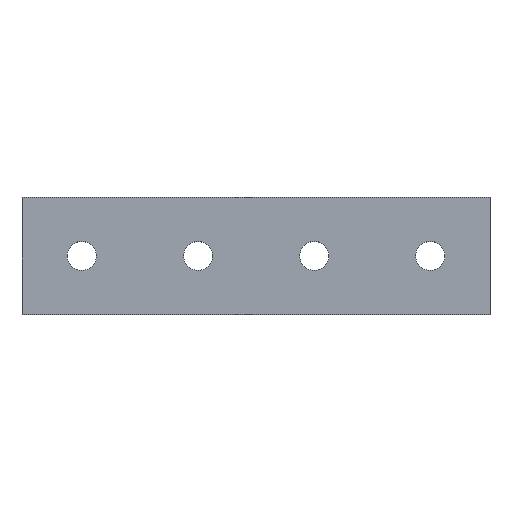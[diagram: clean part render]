
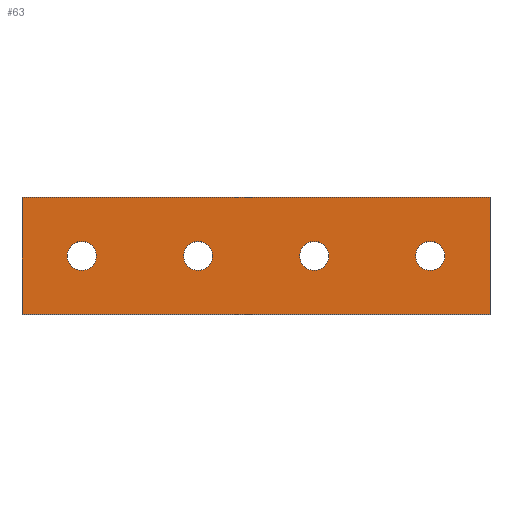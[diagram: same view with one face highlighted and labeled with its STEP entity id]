
A CAD part, top view. The second image highlights one B-rep face of the part: STEP entity #63.
In plain terms, the highlighted planar face has unit normal (0, 0, 1).
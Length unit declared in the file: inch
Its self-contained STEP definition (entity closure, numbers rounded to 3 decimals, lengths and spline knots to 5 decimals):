
#63=ADVANCED_FACE('',(#132,#133,#134,#135,#136),#137,.T.);
#132=FACE_BOUND('',#262,.T.);
#133=FACE_BOUND('',#263,.T.);
#134=FACE_BOUND('',#264,.T.);
#135=FACE_BOUND('',#265,.T.);
#136=FACE_OUTER_BOUND('',#266,.T.);
#137=PLANE('',#267);
#262=EDGE_LOOP('',(#415,#416,#417,#418));
#263=EDGE_LOOP('',(#419,#420,#421,#422));
#264=EDGE_LOOP('',(#423,#424,#425,#426));
#265=EDGE_LOOP('',(#427,#428,#429,#430));
#266=EDGE_LOOP('',(#431,#432,#433,#434));
#267=AXIS2_PLACEMENT_3D('',#435,#436,#437);
#415=ORIENTED_EDGE('',*,*,#540,.F.);
#416=ORIENTED_EDGE('',*,*,#545,.F.);
#417=ORIENTED_EDGE('',*,*,#549,.F.);
#418=ORIENTED_EDGE('',*,*,#564,.F.);
#419=ORIENTED_EDGE('',*,*,#572,.F.);
#420=ORIENTED_EDGE('',*,*,#573,.F.);
#421=ORIENTED_EDGE('',*,*,#574,.F.);
#422=ORIENTED_EDGE('',*,*,#575,.F.);
#423=ORIENTED_EDGE('',*,*,#576,.F.);
#424=ORIENTED_EDGE('',*,*,#553,.F.);
#425=ORIENTED_EDGE('',*,*,#577,.F.);
#426=ORIENTED_EDGE('',*,*,#567,.F.);
#427=ORIENTED_EDGE('',*,*,#578,.F.);
#428=ORIENTED_EDGE('',*,*,#579,.F.);
#429=ORIENTED_EDGE('',*,*,#580,.F.);
#430=ORIENTED_EDGE('',*,*,#558,.F.);
#431=ORIENTED_EDGE('',*,*,#581,.F.);
#432=ORIENTED_EDGE('',*,*,#582,.F.);
#433=ORIENTED_EDGE('',*,*,#583,.F.);
#434=ORIENTED_EDGE('',*,*,#584,.F.);
#435=CARTESIAN_POINT('',(3.25,0.8125,0.375));
#436=DIRECTION('',(0.0,0.0,1.0));
#437=DIRECTION('',(1.0,0.0,0.0));
#540=EDGE_CURVE('',#623,#624,#625,.T.);
#545=EDGE_CURVE('',#632,#623,#633,.T.);
#549=EDGE_CURVE('',#638,#632,#639,.T.);
#553=EDGE_CURVE('',#644,#645,#646,.T.);
#558=EDGE_CURVE('',#653,#654,#655,.T.);
#564=EDGE_CURVE('',#624,#638,#663,.T.);
#567=EDGE_CURVE('',#666,#667,#668,.T.);
#572=EDGE_CURVE('',#675,#676,#677,.T.);
#573=EDGE_CURVE('',#678,#675,#679,.T.);
#574=EDGE_CURVE('',#680,#678,#681,.T.);
#575=EDGE_CURVE('',#676,#680,#682,.T.);
#576=EDGE_CURVE('',#645,#666,#683,.T.);
#577=EDGE_CURVE('',#667,#644,#684,.T.);
#578=EDGE_CURVE('',#685,#653,#686,.T.);
#579=EDGE_CURVE('',#687,#685,#688,.T.);
#580=EDGE_CURVE('',#654,#687,#689,.T.);
#581=EDGE_CURVE('',#690,#691,#692,.T.);
#582=EDGE_CURVE('',#693,#690,#694,.T.);
#583=EDGE_CURVE('',#695,#693,#696,.T.);
#584=EDGE_CURVE('',#691,#695,#697,.T.);
#623=VERTEX_POINT('',#746);
#624=VERTEX_POINT('',#747);
#625=B_SPLINE_CURVE_WITH_KNOTS('',3,(#748,#749,#750,#751),.UNSPECIFIED.,.F.,.F.,(4,4),(-1.0,-0.0),.UNSPECIFIED.);
#632=VERTEX_POINT('',#763);
#633=B_SPLINE_CURVE_WITH_KNOTS('',3,(#764,#765,#766,#767),.UNSPECIFIED.,.F.,.F.,(4,4),(-1.0,-0.0),.UNSPECIFIED.);
#638=VERTEX_POINT('',#776);
#639=B_SPLINE_CURVE_WITH_KNOTS('',3,(#777,#778,#779,#780),.UNSPECIFIED.,.F.,.F.,(4,4),(-1.0,-0.0),.UNSPECIFIED.);
#644=VERTEX_POINT('',#789);
#645=VERTEX_POINT('',#790);
#646=B_SPLINE_CURVE_WITH_KNOTS('',3,(#791,#792,#793,#794),.UNSPECIFIED.,.F.,.F.,(4,4),(-1.0,-0.0),.UNSPECIFIED.);
#653=VERTEX_POINT('',#806);
#654=VERTEX_POINT('',#807);
#655=B_SPLINE_CURVE_WITH_KNOTS('',3,(#808,#809,#810,#811),.UNSPECIFIED.,.F.,.F.,(4,4),(-1.0,-0.0),.UNSPECIFIED.);
#663=B_SPLINE_CURVE_WITH_KNOTS('',3,(#824,#825,#826,#827),.UNSPECIFIED.,.F.,.F.,(4,4),(-1.0,-0.0),.UNSPECIFIED.);
#666=VERTEX_POINT('',#833);
#667=VERTEX_POINT('',#834);
#668=B_SPLINE_CURVE_WITH_KNOTS('',3,(#835,#836,#837,#838),.UNSPECIFIED.,.F.,.F.,(4,4),(-1.0,-0.0),.UNSPECIFIED.);
#675=VERTEX_POINT('',#850);
#676=VERTEX_POINT('',#851);
#677=B_SPLINE_CURVE_WITH_KNOTS('',3,(#852,#853,#854,#855),.UNSPECIFIED.,.F.,.F.,(4,4),(-1.0,-0.0),.UNSPECIFIED.);
#678=VERTEX_POINT('',#856);
#679=B_SPLINE_CURVE_WITH_KNOTS('',3,(#857,#858,#859,#860),.UNSPECIFIED.,.F.,.F.,(4,4),(-1.0,-0.0),.UNSPECIFIED.);
#680=VERTEX_POINT('',#861);
#681=B_SPLINE_CURVE_WITH_KNOTS('',3,(#862,#863,#864,#865),.UNSPECIFIED.,.F.,.F.,(4,4),(-1.0,-0.0),.UNSPECIFIED.);
#682=B_SPLINE_CURVE_WITH_KNOTS('',3,(#866,#867,#868,#869),.UNSPECIFIED.,.F.,.F.,(4,4),(-1.0,-0.0),.UNSPECIFIED.);
#683=B_SPLINE_CURVE_WITH_KNOTS('',3,(#870,#871,#872,#873),.UNSPECIFIED.,.F.,.F.,(4,4),(-1.0,-0.0),.UNSPECIFIED.);
#684=B_SPLINE_CURVE_WITH_KNOTS('',3,(#874,#875,#876,#877),.UNSPECIFIED.,.F.,.F.,(4,4),(-1.0,-0.0),.UNSPECIFIED.);
#685=VERTEX_POINT('',#878);
#686=B_SPLINE_CURVE_WITH_KNOTS('',3,(#879,#880,#881,#882),.UNSPECIFIED.,.F.,.F.,(4,4),(-1.0,-0.0),.UNSPECIFIED.);
#687=VERTEX_POINT('',#883);
#688=B_SPLINE_CURVE_WITH_KNOTS('',3,(#884,#885,#886,#887),.UNSPECIFIED.,.F.,.F.,(4,4),(-1.0,-0.0),.UNSPECIFIED.);
#689=B_SPLINE_CURVE_WITH_KNOTS('',3,(#888,#889,#890,#891),.UNSPECIFIED.,.F.,.F.,(4,4),(-1.0,-0.0),.UNSPECIFIED.);
#690=VERTEX_POINT('',#892);
#691=VERTEX_POINT('',#893);
#692=LINE('',#894,#895);
#693=VERTEX_POINT('',#896);
#694=LINE('',#897,#898);
#695=VERTEX_POINT('',#899);
#696=LINE('',#900,#901);
#697=LINE('',#902,#903);
#746=CARTESIAN_POINT('',(5.87162,0.8125,0.375));
#747=CARTESIAN_POINT('',(5.66999,1.01416,0.375));
#748=CARTESIAN_POINT('',(5.87162,0.8125,0.375));
#749=CARTESIAN_POINT('',(5.87162,0.92382,0.375));
#750=CARTESIAN_POINT('',(5.78129,1.01416,0.375));
#751=CARTESIAN_POINT('',(5.66999,1.01416,0.375));
#763=CARTESIAN_POINT('',(5.66999,0.61084,0.375));
#764=CARTESIAN_POINT('',(5.66999,0.61084,0.375));
#765=CARTESIAN_POINT('',(5.78129,0.61084,0.375));
#766=CARTESIAN_POINT('',(5.87162,0.70119,0.375));
#767=CARTESIAN_POINT('',(5.87162,0.8125,0.375));
#776=CARTESIAN_POINT('',(5.46837,0.8125,0.375));
#777=CARTESIAN_POINT('',(5.46837,0.8125,0.375));
#778=CARTESIAN_POINT('',(5.46837,0.70119,0.375));
#779=CARTESIAN_POINT('',(5.5587,0.61084,0.375));
#780=CARTESIAN_POINT('',(5.66999,0.61084,0.375));
#789=CARTESIAN_POINT('',(2.445,0.61084,0.375));
#790=CARTESIAN_POINT('',(2.64662,0.8125,0.375));
#791=CARTESIAN_POINT('',(2.445,0.61084,0.375));
#792=CARTESIAN_POINT('',(2.55629,0.61084,0.375));
#793=CARTESIAN_POINT('',(2.64662,0.70119,0.375));
#794=CARTESIAN_POINT('',(2.64662,0.8125,0.375));
#806=CARTESIAN_POINT('',(4.05999,1.01416,0.375));
#807=CARTESIAN_POINT('',(3.85837,0.8125,0.375));
#808=CARTESIAN_POINT('',(4.05999,1.01416,0.375));
#809=CARTESIAN_POINT('',(3.9487,1.01416,0.375));
#810=CARTESIAN_POINT('',(3.85837,0.92382,0.375));
#811=CARTESIAN_POINT('',(3.85837,0.8125,0.375));
#824=CARTESIAN_POINT('',(5.66999,1.01416,0.375));
#825=CARTESIAN_POINT('',(5.5587,1.01416,0.375));
#826=CARTESIAN_POINT('',(5.46837,0.92382,0.375));
#827=CARTESIAN_POINT('',(5.46837,0.8125,0.375));
#833=CARTESIAN_POINT('',(2.445,1.01416,0.375));
#834=CARTESIAN_POINT('',(2.24338,0.8125,0.375));
#835=CARTESIAN_POINT('',(2.445,1.01416,0.375));
#836=CARTESIAN_POINT('',(2.3337,1.01416,0.375));
#837=CARTESIAN_POINT('',(2.24338,0.92382,0.375));
#838=CARTESIAN_POINT('',(2.24338,0.8125,0.375));
#850=CARTESIAN_POINT('',(1.03162,0.8125,0.375));
#851=CARTESIAN_POINT('',(0.83,1.01416,0.375));
#852=CARTESIAN_POINT('',(1.03162,0.8125,0.375));
#853=CARTESIAN_POINT('',(1.03162,0.92382,0.375));
#854=CARTESIAN_POINT('',(0.94128,1.01416,0.375));
#855=CARTESIAN_POINT('',(0.83,1.01416,0.375));
#856=CARTESIAN_POINT('',(0.83,0.61084,0.375));
#857=CARTESIAN_POINT('',(0.83,0.61084,0.375));
#858=CARTESIAN_POINT('',(0.94128,0.61084,0.375));
#859=CARTESIAN_POINT('',(1.03162,0.70119,0.375));
#860=CARTESIAN_POINT('',(1.03162,0.8125,0.375));
#861=CARTESIAN_POINT('',(0.62838,0.8125,0.375));
#862=CARTESIAN_POINT('',(0.62838,0.8125,0.375));
#863=CARTESIAN_POINT('',(0.62838,0.70119,0.375));
#864=CARTESIAN_POINT('',(0.7187,0.61084,0.375));
#865=CARTESIAN_POINT('',(0.83,0.61084,0.375));
#866=CARTESIAN_POINT('',(0.83,1.01416,0.375));
#867=CARTESIAN_POINT('',(0.7187,1.01416,0.375));
#868=CARTESIAN_POINT('',(0.62838,0.92382,0.375));
#869=CARTESIAN_POINT('',(0.62838,0.8125,0.375));
#870=CARTESIAN_POINT('',(2.64662,0.8125,0.375));
#871=CARTESIAN_POINT('',(2.64662,0.92382,0.375));
#872=CARTESIAN_POINT('',(2.55629,1.01416,0.375));
#873=CARTESIAN_POINT('',(2.445,1.01416,0.375));
#874=CARTESIAN_POINT('',(2.24338,0.8125,0.375));
#875=CARTESIAN_POINT('',(2.24338,0.70119,0.375));
#876=CARTESIAN_POINT('',(2.3337,0.61084,0.375));
#877=CARTESIAN_POINT('',(2.445,0.61084,0.375));
#878=CARTESIAN_POINT('',(4.26161,0.8125,0.375));
#879=CARTESIAN_POINT('',(4.26161,0.8125,0.375));
#880=CARTESIAN_POINT('',(4.26161,0.92382,0.375));
#881=CARTESIAN_POINT('',(4.17129,1.01416,0.375));
#882=CARTESIAN_POINT('',(4.05999,1.01416,0.375));
#883=CARTESIAN_POINT('',(4.05999,0.61084,0.375));
#884=CARTESIAN_POINT('',(4.05999,0.61084,0.375));
#885=CARTESIAN_POINT('',(4.17129,0.61084,0.375));
#886=CARTESIAN_POINT('',(4.26161,0.70119,0.375));
#887=CARTESIAN_POINT('',(4.26161,0.8125,0.375));
#888=CARTESIAN_POINT('',(3.85837,0.8125,0.375));
#889=CARTESIAN_POINT('',(3.85837,0.70119,0.375));
#890=CARTESIAN_POINT('',(3.9487,0.61084,0.375));
#891=CARTESIAN_POINT('',(4.05999,0.61084,0.375));
#892=CARTESIAN_POINT('',(6.5,0.0,0.375));
#893=CARTESIAN_POINT('',(0.0,0.0,0.375));
#894=CARTESIAN_POINT('',(6.5,0.0,0.375));
#895=VECTOR('',#1002,1.0);
#896=CARTESIAN_POINT('',(6.5,1.625,0.375));
#897=CARTESIAN_POINT('',(6.5,1.625,0.375));
#898=VECTOR('',#1003,1.0);
#899=CARTESIAN_POINT('',(0.0,1.625,0.375));
#900=CARTESIAN_POINT('',(0.0,1.625,0.375));
#901=VECTOR('',#1004,1.0);
#902=CARTESIAN_POINT('',(0.0,0.0,0.375));
#903=VECTOR('',#1005,1.0);
#1002=DIRECTION('',(-1.0,0.0,0.0));
#1003=DIRECTION('',(0.0,-1.0,0.0));
#1004=DIRECTION('',(1.0,0.0,0.0));
#1005=DIRECTION('',(0.0,1.0,0.0));
